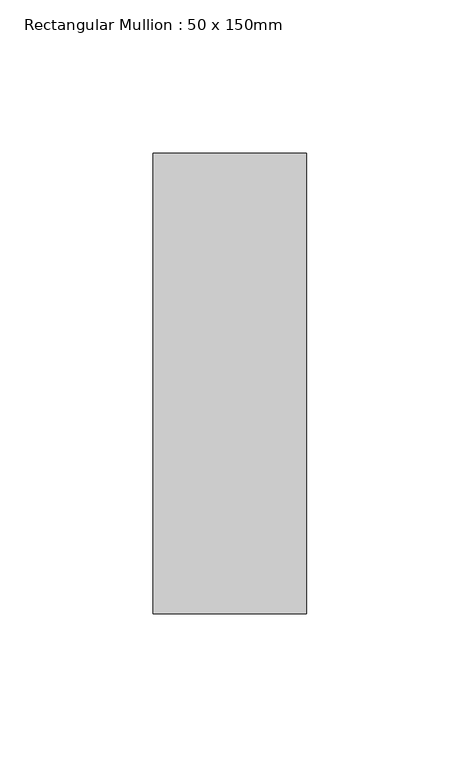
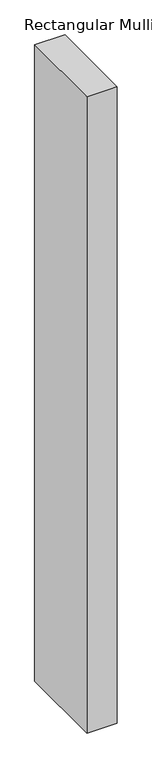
"""IFC4 building model written with IfcOpenShell, lengths in millimetres: member geometry, Rectangular Mullion : 50 x 150mm."""

from ifc_helpers import new_model, si_unit, frame, origin, place, context, project, spatial, polyline, outline, extrude, source, transform, mapped, element, save


def rectangular_mullion_50_x_150mm_00d54206(model_context):
    return source(origin(), model_context, "Body", "SweptSolid", [
        extrude(outline(polyline([(0.0, 75.0), (0.0, -75.0), (-50.0, -75.0), (-50.0, 75.0), (0.0, 75.0)])), frame((0.0, 0.0, -1113.7564813), z_axis=(0.0, 0.0, 1.0), x_axis=(1.0, 0.0, 0.0)), (0.0, 0.0, 1.0), 1113.7564813),
    ])


if __name__ == "__main__":
    model = new_model("IFC4")
    model_context = context("Model", 3, world=origin())
    ifc_project = project(units=[si_unit("LENGTHUNIT", "METRE", prefix="MILLI")], contexts=[model_context])
    site = spatial("IfcSite", under=ifc_project)
    building = spatial("IfcBuilding", under=site)
    placement = place(None, origin())
    rectangular_mullion_50_x_150mm_shape = rectangular_mullion_50_x_150mm_00d54206(model_context)
    element("IfcMember", 1, ObjectType="Rectangular Mullion : 50 x 150mm", at=placement, inside=building, context=model_context, shape_type="MappedRepresentation", body=[
        mapped(rectangular_mullion_50_x_150mm_shape, transform((0.0, 0.0, 0.0), x_axis=(1.0, 0.0, 0.0), y_axis=(0.0, 1.0, 0.0), z_axis=(0.0, 0.0, 1.0))),
    ])
    save(model, "model.ifc")
